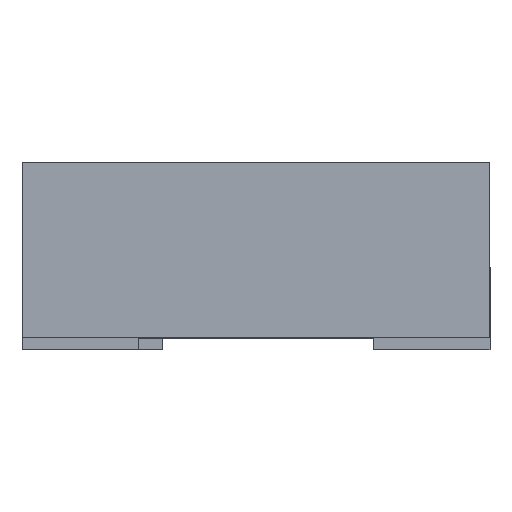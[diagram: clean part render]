
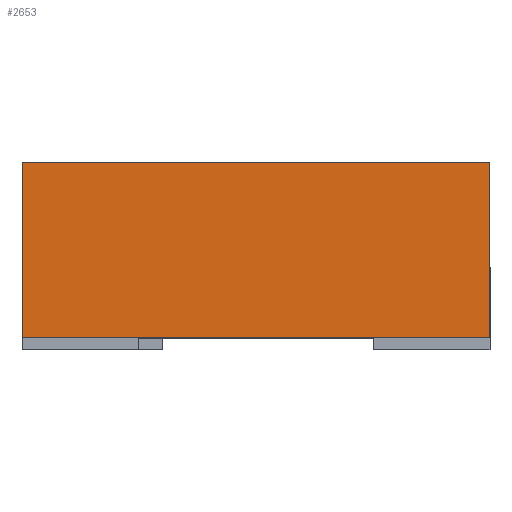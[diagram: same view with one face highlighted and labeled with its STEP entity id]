
A CAD part, top view. The second image highlights one B-rep face of the part: STEP entity #2653.
In plain terms, the highlighted planar face has unit normal (0, 0, 1).
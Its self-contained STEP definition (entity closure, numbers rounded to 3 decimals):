
#12 = EDGE_CURVE ( 'NONE', #2156, #154, #1374, .T. ) ;
#30 = EDGE_CURVE ( 'NONE', #2511, #1328, #1817, .T. ) ;
#45 = VECTOR ( 'NONE', #322, 1000. ) ;
#133 = CARTESIAN_POINT ( 'NONE',  ( 1., 0.05, 1. ) ) ;
#135 = CARTESIAN_POINT ( 'NONE',  ( 1., 0.05, 1. ) ) ;
#154 = VERTEX_POINT ( 'NONE', #133 ) ;
#164 = ORIENTED_EDGE ( 'NONE', *, *, #30, .T. ) ;
#178 = LINE ( 'NONE', #1923, #1564 ) ;
#298 = ORIENTED_EDGE ( 'NONE', *, *, #12, .F. ) ;
#322 = DIRECTION ( 'NONE',  ( 0., -1., 0. ) ) ;
#553 = LINE ( 'NONE', #135, #2519 ) ;
#597 = EDGE_CURVE ( 'NONE', #2511, #2156, #178, .T. ) ;
#696 = AXIS2_PLACEMENT_3D ( 'NONE', #2202, #1110, #1512 ) ;
#873 = ORIENTED_EDGE ( 'NONE', *, *, #1005, .T. ) ;
#957 = CARTESIAN_POINT ( 'NONE',  ( 1., 4.428, 1. ) ) ;
#1005 = EDGE_CURVE ( 'NONE', #1328, #154, #553, .T. ) ;
#1022 = DIRECTION ( 'NONE',  ( 1., 0., 0. ) ) ;
#1110 = DIRECTION ( 'NONE',  ( 0., 0., -1. ) ) ;
#1148 = DIRECTION ( 'NONE',  ( 0., -1., 0. ) ) ;
#1328 = VERTEX_POINT ( 'NONE', #2017 ) ;
#1374 = LINE ( 'NONE', #957, #45 ) ;
#1498 = PLANE ( 'NONE',  #696 ) ;
#1512 = DIRECTION ( 'NONE',  ( -1., 0., 0. ) ) ;
#1564 = VECTOR ( 'NONE', #1934, 1000. ) ;
#1646 = VECTOR ( 'NONE', #1148, 1000. ) ;
#1680 = CARTESIAN_POINT ( 'NONE',  ( 1., 0.8, 1. ) ) ;
#1817 = LINE ( 'NONE', #2679, #1646 ) ;
#1834 = EDGE_LOOP ( 'NONE', ( #1906, #164, #873, #298 ) ) ;
#1906 = ORIENTED_EDGE ( 'NONE', *, *, #597, .F. ) ;
#1923 = CARTESIAN_POINT ( 'NONE',  ( 1., 0.8, 1. ) ) ;
#1934 = DIRECTION ( 'NONE',  ( 1., 0., 0. ) ) ;
#2017 = CARTESIAN_POINT ( 'NONE',  ( -1., 0.05, 1. ) ) ;
#2156 = VERTEX_POINT ( 'NONE', #1680 ) ;
#2202 = CARTESIAN_POINT ( 'NONE',  ( 1., 4.428, 1. ) ) ;
#2330 = CARTESIAN_POINT ( 'NONE',  ( -1., 0.8, 1. ) ) ;
#2422 = FACE_OUTER_BOUND ( 'NONE', #1834, .T. ) ;
#2511 = VERTEX_POINT ( 'NONE', #2330 ) ;
#2519 = VECTOR ( 'NONE', #1022, 1000. ) ;
#2653 = ADVANCED_FACE ( 'NONE', ( #2422 ), #1498, .F. ) ;
#2679 = CARTESIAN_POINT ( 'NONE',  ( -1., 4.428, 1. ) ) ;
